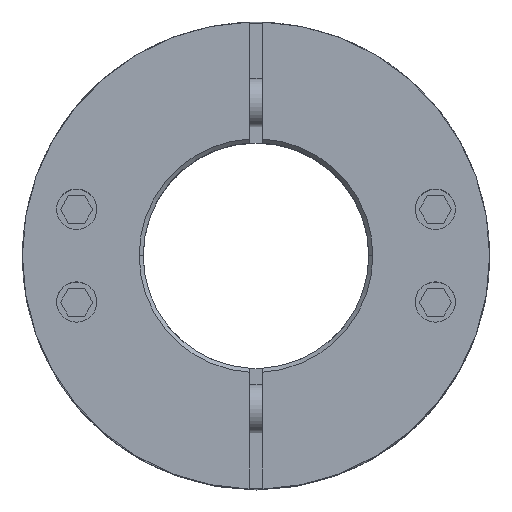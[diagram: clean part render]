
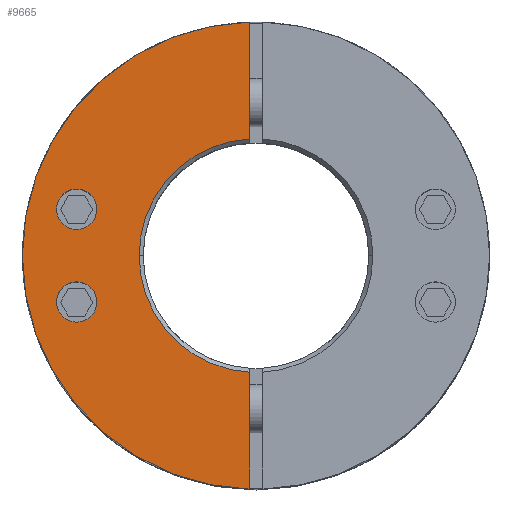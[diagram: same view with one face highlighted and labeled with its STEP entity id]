
A CAD part, top view. The second image highlights one B-rep face of the part: STEP entity #9665.
In plain terms, the highlighted planar face has unit normal (0, 0, 1).
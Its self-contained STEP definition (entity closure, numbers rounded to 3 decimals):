
#2545=CARTESIAN_POINT('',(-19.767,-5.759,27.125));
#2546=VERTEX_POINT('',#2545);
#2555=CARTESIAN_POINT('',(-24.767,-5.759,27.125));
#2556=VERTEX_POINT('',#2555);
#2557=CARTESIAN_POINT('',(-22.267,-5.759,27.125));
#2558=DIRECTION('',(0.0,0.0,-1.0));
#2559=DIRECTION('',(1.0,0.0,0.0));
#2560=AXIS2_PLACEMENT_3D('',#2557,#2558,#2559);
#2561=CIRCLE('',#2560,2.5);
#2562=EDGE_CURVE('',#2556,#2546,#2561,.T.);
#2671=CARTESIAN_POINT('',(-19.767,5.759,27.125));
#2672=VERTEX_POINT('',#2671);
#2681=CARTESIAN_POINT('',(-24.767,5.759,27.125));
#2682=VERTEX_POINT('',#2681);
#2683=CARTESIAN_POINT('',(-22.267,5.759,27.125));
#2684=DIRECTION('',(0.0,0.0,-1.0));
#2685=DIRECTION('',(1.0,0.0,0.0));
#2686=AXIS2_PLACEMENT_3D('',#2683,#2684,#2685);
#2687=CIRCLE('',#2686,2.5);
#2688=EDGE_CURVE('',#2682,#2672,#2687,.T.);
#2900=CARTESIAN_POINT('',(-29.0,0.,27.125));
#2901=VERTEX_POINT('',#2900);
#2908=CARTESIAN_POINT('',(-0.75,28.99,27.125));
#2909=VERTEX_POINT('',#2908);
#2910=CARTESIAN_POINT('',(0.0,0.0,27.125));
#2911=DIRECTION('',(0.0,0.0,-1.0));
#2912=DIRECTION('',(1.0,0.0,0.0));
#2913=AXIS2_PLACEMENT_3D('',#2910,#2911,#2912);
#2914=CIRCLE('',#2913,29.0);
#2915=EDGE_CURVE('',#2901,#2909,#2914,.T.);
#3262=CARTESIAN_POINT('',(-14.5,0.,27.125));
#3263=VERTEX_POINT('',#3262);
#3279=CARTESIAN_POINT('',(-0.75,14.481,27.125));
#3280=VERTEX_POINT('',#3279);
#3294=CARTESIAN_POINT('',(0.0,0.0,27.125));
#3295=DIRECTION('',(0.0,0.0,1.0));
#3296=DIRECTION('',(-1.0,0.0,0.0));
#3297=AXIS2_PLACEMENT_3D('',#3294,#3295,#3296);
#3298=CIRCLE('',#3297,14.5);
#3299=EDGE_CURVE('',#3280,#3263,#3298,.T.);
#9418=CARTESIAN_POINT('',(-0.75,-14.481,27.125));
#9419=VERTEX_POINT('',#9418);
#9420=CARTESIAN_POINT('',(0.0,0.0,27.125));
#9421=DIRECTION('',(0.0,0.0,1.0));
#9422=DIRECTION('',(-1.0,0.0,0.0));
#9423=AXIS2_PLACEMENT_3D('',#9420,#9421,#9422);
#9424=CIRCLE('',#9423,14.5);
#9425=EDGE_CURVE('',#3263,#9419,#9424,.T.);
#9458=CARTESIAN_POINT('',(-0.75,14.481,27.125));
#9459=DIRECTION('',(0.0,1.0,0.0));
#9460=VECTOR('',#9459,14.51);
#9461=LINE('',#9458,#9460);
#9462=EDGE_CURVE('',#3280,#2909,#9461,.T.);
#9572=CARTESIAN_POINT('',(-0.75,-28.99,27.125));
#9573=VERTEX_POINT('',#9572);
#9574=CARTESIAN_POINT('',(-0.75,-28.99,27.125));
#9575=DIRECTION('',(0.0,1.0,0.0));
#9576=VECTOR('',#9575,14.51);
#9577=LINE('',#9574,#9576);
#9578=EDGE_CURVE('',#9573,#9419,#9577,.T.);
#9626=CARTESIAN_POINT('',(2.636,0.,27.125));
#9627=DIRECTION('',(0.0,0.0,1.0));
#9628=DIRECTION('',(1.0,0.0,0.0));
#9629=AXIS2_PLACEMENT_3D('',#9626,#9627,#9628);
#9630=PLANE('',#9629);
#9631=ORIENTED_EDGE('',*,*,#3299,.F.);
#9632=ORIENTED_EDGE('',*,*,#9462,.T.);
#9633=ORIENTED_EDGE('',*,*,#2915,.F.);
#9634=CARTESIAN_POINT('',(0.0,0.0,27.125));
#9635=DIRECTION('',(0.0,0.0,-1.0));
#9636=DIRECTION('',(1.0,0.0,0.0));
#9637=AXIS2_PLACEMENT_3D('',#9634,#9635,#9636);
#9638=CIRCLE('',#9637,29.0);
#9639=EDGE_CURVE('',#9573,#2901,#9638,.T.);
#9640=ORIENTED_EDGE('',*,*,#9639,.F.);
#9641=ORIENTED_EDGE('',*,*,#9578,.T.);
#9642=ORIENTED_EDGE('',*,*,#9425,.F.);
#9643=EDGE_LOOP('',(#9631,#9632,#9633,#9640,#9641,#9642));
#9644=FACE_OUTER_BOUND('',#9643,.T.);
#9645=CARTESIAN_POINT('',(-22.267,-5.759,27.125));
#9646=DIRECTION('',(0.0,0.0,-1.0));
#9647=DIRECTION('',(1.0,0.0,0.0));
#9648=AXIS2_PLACEMENT_3D('',#9645,#9646,#9647);
#9649=CIRCLE('',#9648,2.5);
#9650=EDGE_CURVE('',#2546,#2556,#9649,.T.);
#9651=ORIENTED_EDGE('',*,*,#9650,.T.);
#9652=ORIENTED_EDGE('',*,*,#2562,.T.);
#9653=EDGE_LOOP('',(#9651,#9652));
#9654=FACE_BOUND('',#9653,.T.);
#9655=CARTESIAN_POINT('',(-22.267,5.759,27.125));
#9656=DIRECTION('',(0.0,0.0,-1.0));
#9657=DIRECTION('',(1.0,0.0,0.0));
#9658=AXIS2_PLACEMENT_3D('',#9655,#9656,#9657);
#9659=CIRCLE('',#9658,2.5);
#9660=EDGE_CURVE('',#2672,#2682,#9659,.T.);
#9661=ORIENTED_EDGE('',*,*,#9660,.T.);
#9662=ORIENTED_EDGE('',*,*,#2688,.T.);
#9663=EDGE_LOOP('',(#9661,#9662));
#9664=FACE_BOUND('',#9663,.T.);
#9665=ADVANCED_FACE('',(#9644,#9654,#9664),#9630,.T.);
